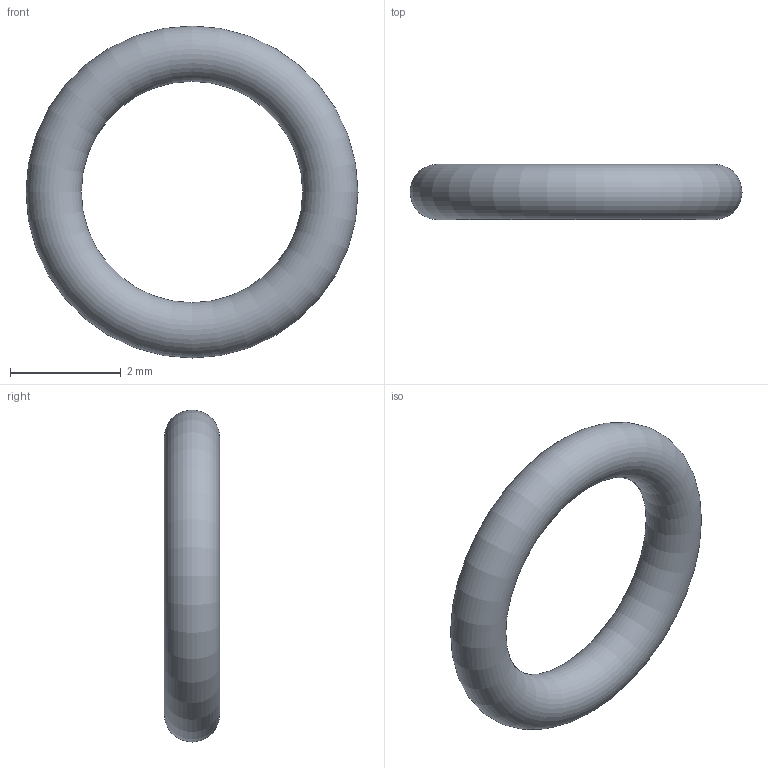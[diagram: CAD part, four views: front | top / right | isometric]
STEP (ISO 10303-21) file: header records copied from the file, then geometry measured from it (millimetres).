
FILE_DESCRIPTION( ( 'STEP AP203' ), '1' );
FILE_NAME( 'C:/Temp/Ganter_Step_05_03_2020/data/3_5/or638/O-Ring OR638-4.00-1.00-70.stp', '2020-03-12T13:44:15', ( 'License CC BY-ND 4.0' ), ( 'CADENAS' ), ' ', 'PARTsolutions', ' ' );
FILE_SCHEMA( ( 'CONFIG_CONTROL_DESIGN' ) );
Length unit declared in the file: millimetre
Products named in the file (1): _O-Ring OR638-4.00-1.00-70
Bounding box: 6 x 1 x 6 mm (x, y, z)
Volume: 12.3 mm3; surface area: 49.3 mm2
Topology: 1 solids, 1 shells, 1 faces, 2 edges, 1 vertices
Faces by surface type: torus 1
Entity records: 62 total; most frequent: CC_DESIGN_PERSON_AND_ORGANIZATION_ASSIGNMENT 5, PERSON_AND_ORGANIZATION_ROLE 4, DIRECTION 4, CARTESIAN_POINT 3, DATE_TIME_ROLE 2, CC_DESIGN_DATE_AND_TIME_ASSIGNMENT 2, AXIS2_PLACEMENT_3D 2, DIMENSIONAL_EXPONENTS 2
